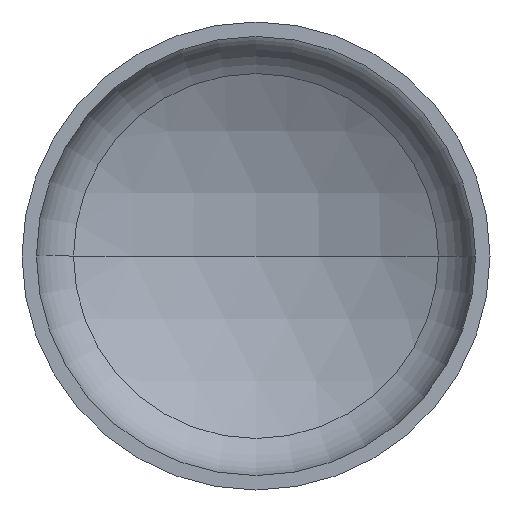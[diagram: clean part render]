
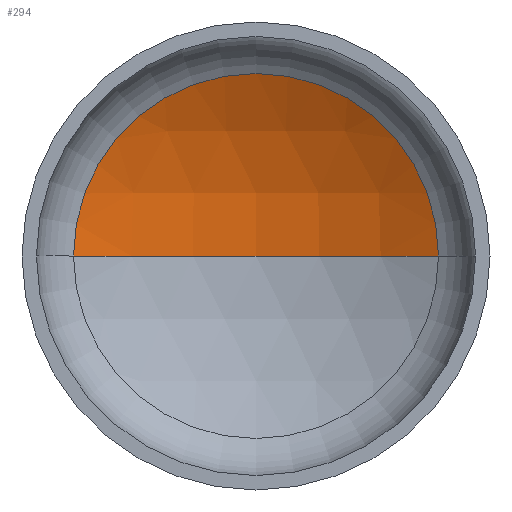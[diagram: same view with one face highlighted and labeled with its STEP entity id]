
A CAD part, front view. The second image highlights one B-rep face of the part: STEP entity #294.
In plain terms, the highlighted spherical face has radius 1760 mm.
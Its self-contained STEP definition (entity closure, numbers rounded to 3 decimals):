
#5 = DIRECTION ( 'NONE',  ( 1., 0., 0. ) ) ;
#8 = AXIS2_PLACEMENT_3D ( 'NONE', #388, #392, #389 ) ;
#10 = DIRECTION ( 'NONE',  ( 0., -1., 0. ) ) ;
#13 = CARTESIAN_POINT ( 'NONE',  ( 0., 416.895, 0. ) ) ;
#16 = EDGE_LOOP ( 'NONE', ( #115, #101, #64 ) ) ;
#24 = VERTEX_POINT ( 'NONE', #370 ) ;
#38 = AXIS2_PLACEMENT_3D ( 'NONE', #208, #210, #227 ) ;
#44 = AXIS2_PLACEMENT_3D ( 'NONE', #209, #357, #378 ) ;
#49 = AXIS2_PLACEMENT_3D ( 'NONE', #13, #10, #5 ) ;
#64 = ORIENTED_EDGE ( 'NONE', *, *, #134, .T. ) ;
#79 = VERTEX_POINT ( 'NONE', #252 ) ;
#101 = ORIENTED_EDGE ( 'NONE', *, *, #135, .T. ) ;
#115 = ORIENTED_EDGE ( 'NONE', *, *, #137, .F. ) ;
#134 = EDGE_CURVE ( 'NONE', #359, #24, #270, .T. ) ;
#135 = EDGE_CURVE ( 'NONE', #79, #359, #202, .T. ) ;
#137 = EDGE_CURVE ( 'NONE', #79, #24, #387, .T. ) ;
#202 = CIRCLE ( 'NONE', #44, 1760. ) ;
#208 = CARTESIAN_POINT ( 'NONE',  ( 0., -1119.974, 0. ) ) ;
#209 = CARTESIAN_POINT ( 'NONE',  ( 0., -1119.974, 0. ) ) ;
#210 = DIRECTION ( 'NONE',  ( 0., 0., 1. ) ) ;
#227 = DIRECTION ( 'NONE',  ( 1., 0., 0. ) ) ;
#250 = SPHERICAL_SURFACE ( 'NONE', #8, 1760. ) ;
#252 = CARTESIAN_POINT ( 'NONE',  ( 0., 640.026, 0. ) ) ;
#270 = CIRCLE ( 'NONE', #49, 857.69 ) ;
#294 = ADVANCED_FACE ( 'NONE', ( #303 ), #250, .F. ) ;
#303 = FACE_OUTER_BOUND ( 'NONE', #16, .T. ) ;
#328 = CARTESIAN_POINT ( 'NONE',  ( 857.69, 416.895, 0. ) ) ;
#357 = DIRECTION ( 'NONE',  ( 0., 0., -1. ) ) ;
#359 = VERTEX_POINT ( 'NONE', #328 ) ;
#370 = CARTESIAN_POINT ( 'NONE',  ( -857.69, 416.895, 0. ) ) ;
#378 = DIRECTION ( 'NONE',  ( -1., 0., 0. ) ) ;
#387 = CIRCLE ( 'NONE', #38, 1760. ) ;
#388 = CARTESIAN_POINT ( 'NONE',  ( 0., -1119.974, 0. ) ) ;
#389 = DIRECTION ( 'NONE',  ( -1., 0., 0. ) ) ;
#392 = DIRECTION ( 'NONE',  ( 0., 0., -1. ) ) ;
